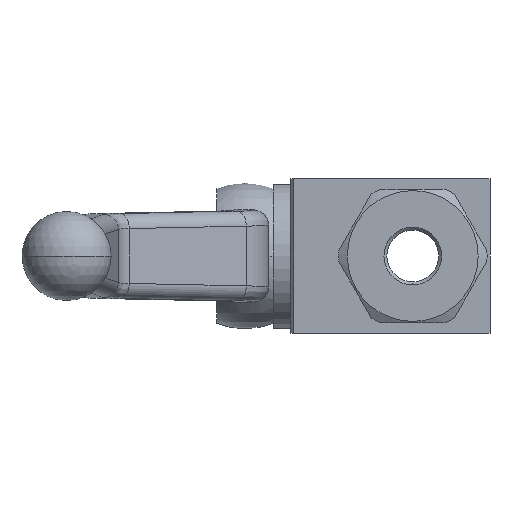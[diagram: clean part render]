
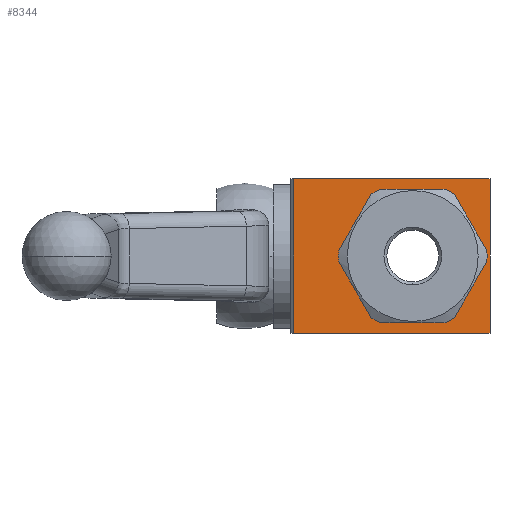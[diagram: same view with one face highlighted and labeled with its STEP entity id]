
A CAD part, left-side view. The second image highlights one B-rep face of the part: STEP entity #8344.
In plain terms, the highlighted planar face has unit normal (-1, 0, 0).
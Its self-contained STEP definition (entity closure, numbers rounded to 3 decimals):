
#100 = DIRECTION ( 'NONE',  ( 0., 0., -1. ) ) ;
#636 = CARTESIAN_POINT ( 'NONE',  ( -18.5, 16.75, 13. ) ) ;
#649 = EDGE_LOOP ( 'NONE', ( #3514, #979, #3584, #6648 ) ) ;
#979 = ORIENTED_EDGE ( 'NONE', *, *, #2209, .F. ) ;
#1377 = AXIS2_PLACEMENT_3D ( 'NONE', #9767, #4001, #10713 ) ;
#1661 = ORIENTED_EDGE ( 'NONE', *, *, #2855, .F. ) ;
#1885 = CARTESIAN_POINT ( 'NONE',  ( -18.5, -3.75, 0. ) ) ;
#1895 = DIRECTION ( 'NONE',  ( 1., 0., 0. ) ) ;
#2209 = EDGE_CURVE ( 'NONE', #6684, #12411, #9774, .T. ) ;
#2419 = VECTOR ( 'NONE', #8007, 1000. ) ;
#2430 = AXIS2_PLACEMENT_3D ( 'NONE', #7637, #1895, #8607 ) ;
#2431 = ORIENTED_EDGE ( 'NONE', *, *, #10243, .F. ) ;
#2556 = VERTEX_POINT ( 'NONE', #6456 ) ;
#2590 = DIRECTION ( 'NONE',  ( 0., -1., 0. ) ) ;
#2853 = DIRECTION ( 'NONE',  ( 0., 0., 1. ) ) ;
#2855 = EDGE_CURVE ( 'NONE', #6880, #4143, #4165, .T. ) ;
#3085 = CARTESIAN_POINT ( 'NONE',  ( -18.5, -16.75, -13. ) ) ;
#3087 = LINE ( 'NONE', #636, #5641 ) ;
#3310 = VECTOR ( 'NONE', #5714, 1000. ) ;
#3514 = ORIENTED_EDGE ( 'NONE', *, *, #7178, .T. ) ;
#3563 = FACE_OUTER_BOUND ( 'NONE', #649, .T. ) ;
#3584 = ORIENTED_EDGE ( 'NONE', *, *, #10961, .F. ) ;
#3730 = PLANE ( 'NONE',  #2430 ) ;
#3740 = LINE ( 'NONE', #5953, #12413 ) ;
#4001 = DIRECTION ( 'NONE',  ( -1., 0., 0. ) ) ;
#4143 = VERTEX_POINT ( 'NONE', #11651 ) ;
#4165 = CIRCLE ( 'NONE', #1377, 11. ) ;
#5641 = VECTOR ( 'NONE', #2590, 1000. ) ;
#5714 = DIRECTION ( 'NONE',  ( 0., -1., 0. ) ) ;
#5808 = FACE_BOUND ( 'NONE', #10469, .T. ) ;
#5865 = LINE ( 'NONE', #9522, #3310 ) ;
#5953 = CARTESIAN_POINT ( 'NONE',  ( -18.5, 16.25, 13. ) ) ;
#6154 = CARTESIAN_POINT ( 'NONE',  ( -18.5, -16.75, 13. ) ) ;
#6456 = CARTESIAN_POINT ( 'NONE',  ( -18.5, 16.25, 13. ) ) ;
#6648 = ORIENTED_EDGE ( 'NONE', *, *, #9351, .T. ) ;
#6684 = VERTEX_POINT ( 'NONE', #10512 ) ;
#6880 = VERTEX_POINT ( 'NONE', #9627 ) ;
#7178 = EDGE_CURVE ( 'NONE', #9672, #12411, #5865, .T. ) ;
#7637 = CARTESIAN_POINT ( 'NONE',  ( -18.5, 16.75, 13. ) ) ;
#8007 = DIRECTION ( 'NONE',  ( 0., 0., -1. ) ) ;
#8344 = ADVANCED_FACE ( 'NONE', ( #5808, #3563 ), #3730, .F. ) ;
#8593 = DIRECTION ( 'NONE',  ( -1., 0., 0. ) ) ;
#8607 = DIRECTION ( 'NONE',  ( 0., 1., 0. ) ) ;
#9351 = EDGE_CURVE ( 'NONE', #2556, #9672, #3740, .T. ) ;
#9522 = CARTESIAN_POINT ( 'NONE',  ( -18.5, 16.75, -13. ) ) ;
#9627 = CARTESIAN_POINT ( 'NONE',  ( -18.5, -3.75, 11. ) ) ;
#9672 = VERTEX_POINT ( 'NONE', #10416 ) ;
#9767 = CARTESIAN_POINT ( 'NONE',  ( -18.5, -3.75, 0. ) ) ;
#9774 = LINE ( 'NONE', #6154, #2419 ) ;
#10243 = EDGE_CURVE ( 'NONE', #4143, #6880, #10478, .T. ) ;
#10416 = CARTESIAN_POINT ( 'NONE',  ( -18.5, 16.25, -13. ) ) ;
#10469 = EDGE_LOOP ( 'NONE', ( #1661, #2431 ) ) ;
#10478 = CIRCLE ( 'NONE', #11763, 11. ) ;
#10512 = CARTESIAN_POINT ( 'NONE',  ( -18.5, -16.75, 13. ) ) ;
#10713 = DIRECTION ( 'NONE',  ( 0., 0., 1. ) ) ;
#10961 = EDGE_CURVE ( 'NONE', #2556, #6684, #3087, .T. ) ;
#11651 = CARTESIAN_POINT ( 'NONE',  ( -18.5, -3.75, -11. ) ) ;
#11763 = AXIS2_PLACEMENT_3D ( 'NONE', #1885, #8593, #2853 ) ;
#12411 = VERTEX_POINT ( 'NONE', #3085 ) ;
#12413 = VECTOR ( 'NONE', #100, 1000. ) ;
